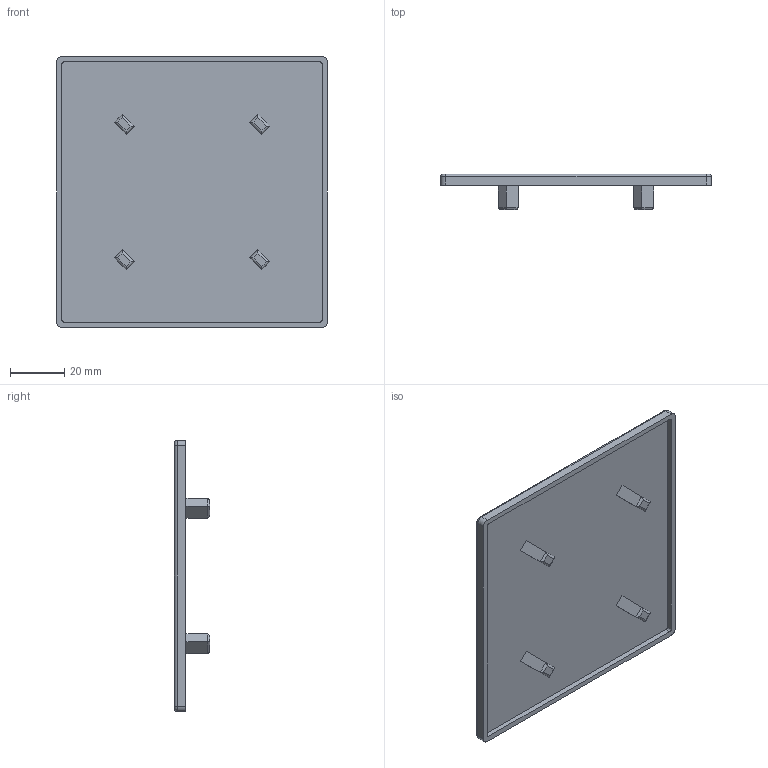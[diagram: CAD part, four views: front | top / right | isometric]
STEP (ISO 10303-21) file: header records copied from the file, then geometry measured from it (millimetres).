
FILE_DESCRIPTION (( 'STEP AP203' ), '1' );
FILE_NAME ('J5C1010.STEP', '2018-08-29T04:27:54', ( 'sr-d11' ), ( 'MouseComputer PC' ), 'SwSTEP 2.0', 'SolidWorks 2014', '' );
FILE_SCHEMA (( 'CONFIG_CONTROL_DESIGN' ));
Length unit declared in the file: millimetre
Products named in the file (1): J5C1010
Bounding box: 100 x 13 x 100 mm (x, y, z)
Volume: 22608 mm3; surface area: 23053 mm2
Topology: 1 solids, 1 shells, 63 faces, 144 edges, 88 vertices
Faces by surface type: plane 31, cylinder 28, torus 4
Entity records: 1811 total; most frequent: CARTESIAN_POINT 344, ORIENTED_EDGE 288, DIRECTION 284, EDGE_CURVE 144, LINE 100, VECTOR 100, AXIS2_PLACEMENT_3D 92, VERTEX_POINT 88
